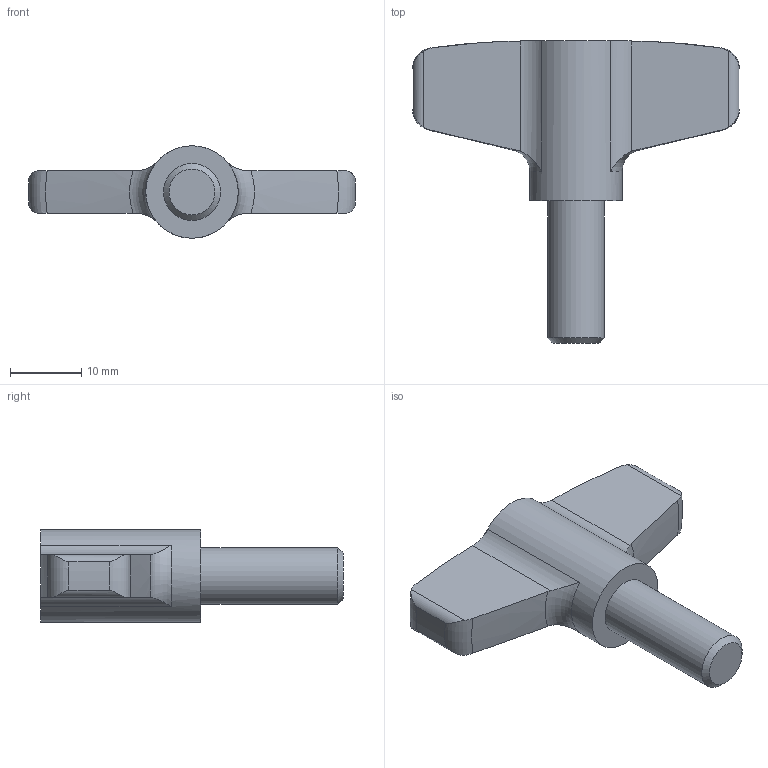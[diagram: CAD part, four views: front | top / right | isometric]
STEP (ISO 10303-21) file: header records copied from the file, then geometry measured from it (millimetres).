
FILE_DESCRIPTION( ( 'STEP AP203' ), '1' );
FILE_NAME( 'C:/Temp/Ganter_Step_05_03_2020/data/2_2/gn_835/Stainless Steel-Wing screw GN 835-46-M8-20-MT.stp', '2020-03-05T12:19:31', ( 'License CC BY-ND 4.0' ), ( 'CADENAS' ), ' ', 'PARTsolutions', ' ' );
FILE_SCHEMA( ( 'CONFIG_CONTROL_DESIGN' ) );
Length unit declared in the file: millimetre
Products named in the file (1): _Stainless Steel-Wing screw GN 835-46-M8-20-MT
Bounding box: 45.98 x 42.5 x 13 mm (x, y, z)
Volume: 6701.9 mm3; surface area: 2865.5 mm2
Topology: 1 solids, 1 shells, 30 faces, 76 edges, 49 vertices
Faces by surface type: cylinder 12, plane 7, torus 6, cone 3, bspline 2
Full cylindrical faces by diameter (mm): 8 x1, 13 x1
Entity records: 1162 total; most frequent: CARTESIAN_POINT 473, ORIENTED_EDGE 144, DIRECTION 114, EDGE_CURVE 72, AXIS2_PLACEMENT_3D 49, VERTEX_POINT 48, B_SPLINE_CURVE_WITH_KNOTS 36, EDGE_LOOP 34
